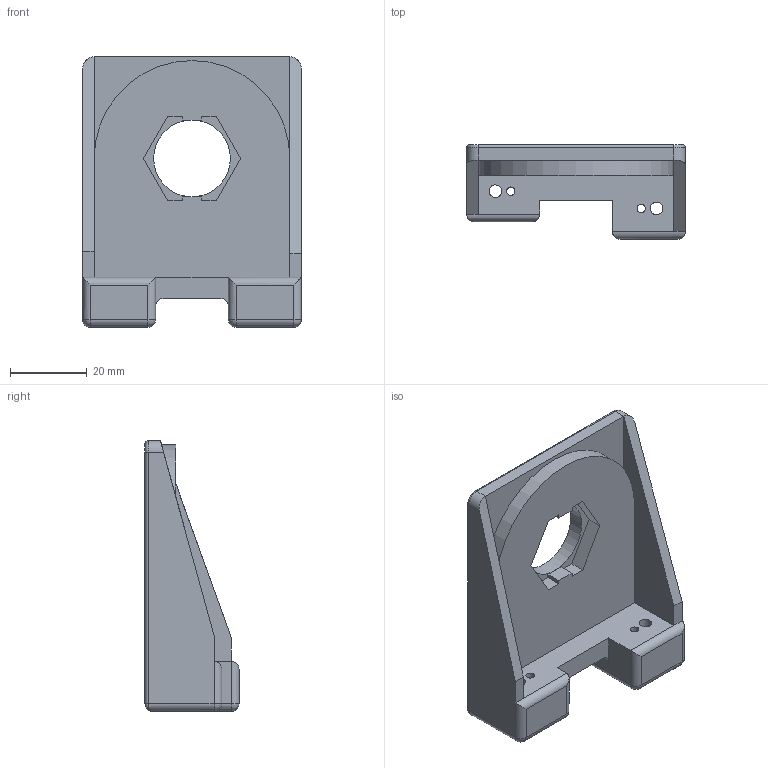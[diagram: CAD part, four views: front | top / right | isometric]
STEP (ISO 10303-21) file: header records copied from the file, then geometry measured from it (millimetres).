
FILE_DESCRIPTION( ( 'Unknown' ), '1' );
FILE_NAME( 'C:/Drawings/CDP/Support Bracket 91 Pitch And Shaft Support/Shaft Support/LTS 300A SHAFT SUPPORT etd.stp', 'Unknown', ( 'Unknown' ), ( 'Unknown' ), 'XStep 1.0', 'Unknown', ' ' );
FILE_SCHEMA( ( 'CONFIG_CONTROL_DESIGN' ) );
Length unit declared in the file: millimetre
Products named in the file (1): 1
Bounding box: 57 x 24.5 x 70.5 mm (x, y, z)
Volume: 35464.9 mm3; surface area: 13359.5 mm2
Topology: 1 solids, 1 shells, 89 faces, 226 edges, 129 vertices
Faces by surface type: plane 43, cylinder 32, sphere 6, torus 4, bspline 2, cone 2
Full cylindrical faces by diameter (mm): 2.2 x2, 3.3 x2, 20 x1
Entity records: 2762 total; most frequent: CARTESIAN_POINT 644, DIRECTION 450, ORIENTED_EDGE 410, EDGE_CURVE 205, AXIS2_PLACEMENT_3D 157, LINE 136, VECTOR 136, VERTEX_POINT 123
